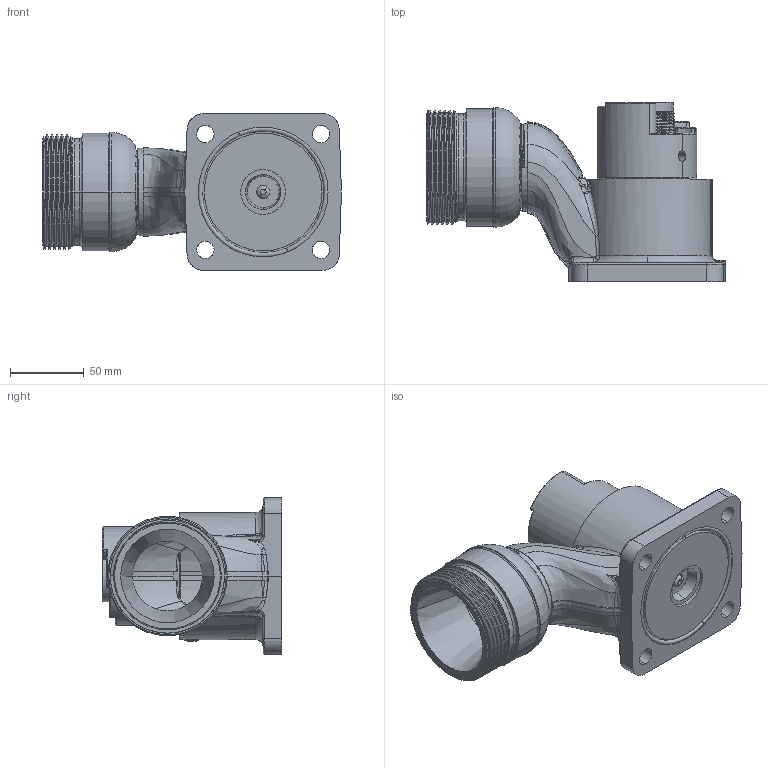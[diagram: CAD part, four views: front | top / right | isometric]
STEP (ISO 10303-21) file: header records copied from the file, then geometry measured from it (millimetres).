
FILE_DESCRIPTION (( 'STEP AP203' ), '1' );
FILE_NAME ('A1860.STEP', '2014-07-01T18:24:40', ( '' ), ( '' ), 'SwSTEP 2.0', 'SolidWorks 2014', '' );
FILE_SCHEMA (( 'CONFIG_CONTROL_DESIGN' ));
Products named in the file (1): A1860
Bounding box: 203.17 x 122.17 x 106.43 mm (x, y, z)
Surface area: 115080.3 mm2 (no closed solid volume)
Topology: 0 solids, 8 shells, 695 faces, 2091 edges, 1399 vertices
Faces by surface type: bspline 250, cylinder 187, plane 166, cone 62, torus 22, sphere 8
Entity records: 46459 total; most frequent: CARTESIAN_POINT 30455, ORIENTED_EDGE 3838, DIRECTION 2349, EDGE_CURVE 2083, VERTEX_POINT 1399, LINE 795, VECTOR 795, AXIS2_PLACEMENT_3D 777
